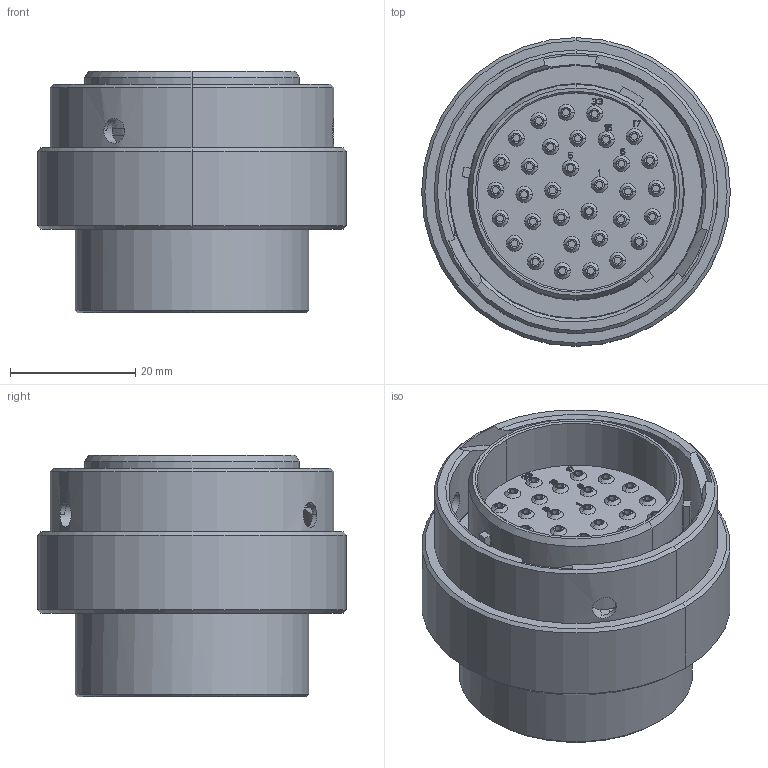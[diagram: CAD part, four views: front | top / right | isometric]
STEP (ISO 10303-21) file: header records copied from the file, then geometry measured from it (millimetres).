
FILE_DESCRIPTION((''),'2;1');
FILE_NAME('C-HD36-24-33PN','2013-05-13T',('workeradm'),('Tyco Electronics Ltd.'),'PRO/ENGINEER BY PARAMETRIC TECHNOLOGY CORPORATION, 2011490','PRO/ENGINEER BY PARAMETRIC TECHNOLOGY CORPORATION, 2011490','');
FILE_SCHEMA(('AUTOMOTIVE_DESIGN { 1 0 10303 214 1 1 1 1 }'));
Length unit declared in the file: millimetre
Products named in the file (1): C-HD36-24-33PN
Bounding box: 49.33 x 49.33 x 38.61 mm (x, y, z)
Volume: 44905.8 mm3; surface area: 13708.6 mm2
Topology: 1 solids, 1 shells, 902 faces, 2162 edges, 1412 vertices
Faces by surface type: plane 472, cylinder 243, cone 81, torus 66, bspline 34, extrusion 6
Entity records: 28618 total; most frequent: CARTESIAN_POINT 6867, DIRECTION 4518, ORIENTED_EDGE 4324, EDGE_CURVE 2162, AXIS2_PLACEMENT_3D 1609, VERTEX_POINT 1412, VECTOR 1300, LINE 1294
